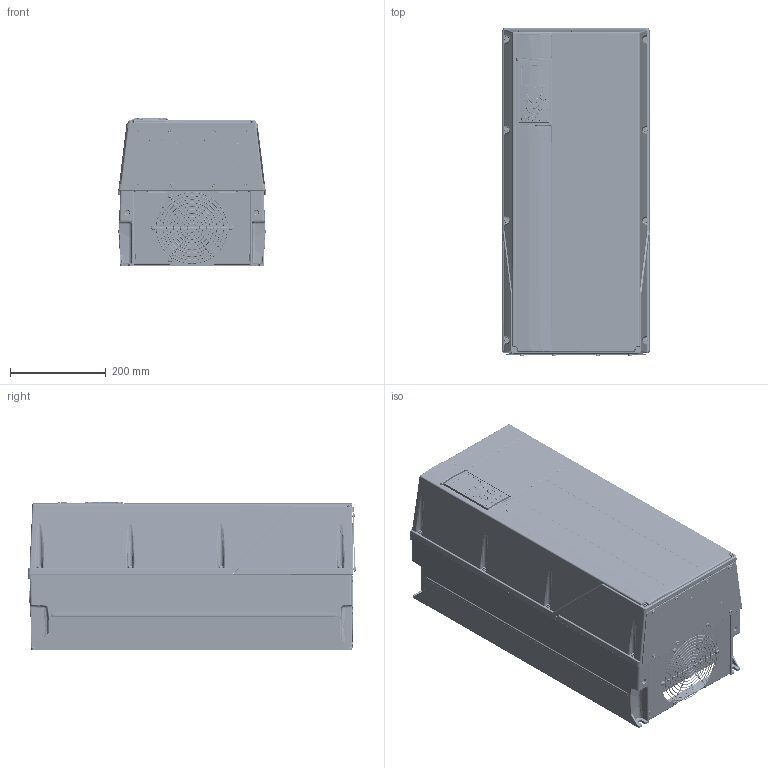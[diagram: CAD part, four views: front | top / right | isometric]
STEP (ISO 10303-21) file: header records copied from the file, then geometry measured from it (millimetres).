
FILE_DESCRIPTION((''),'2;1');
FILE_NAME('DANFOSS-FC100-C1-004','2007-11-29T',('Naushad.pm'),('dan Drives A/S'),'PRO/ENGINEER BY PARAMETRIC TECHNOLOGY CORPORATION, 2007160','PRO/ENGINEER BY PARAMETRIC TECHNOLOGY CORPORATION, 2007160','');
FILE_SCHEMA(('CONFIG_CONTROL_DESIGN', 'GEOMETRIC_VALIDATION_PROPERTIES_MIM'));
Products named in the file (1): DANFOSS-FC100-C1-004
Bounding box: 307.5 x 685.39 x 310.48 mm (x, y, z)
Volume: 47427375.3 mm3; surface area: 3543852 mm2
Topology: 47 solids, 47 shells, 7634 faces, 19361 edges, 11826 vertices
Faces by surface type: cylinder 2439, plane 2370, bspline 1791, torus 519, cone 353, extrusion 82, sphere 80
Entity records: 533276 total; most frequent: CARTESIAN_POINT 276917, ORIENTED_EDGE 38552, DIRECTION 29747, PRESENTATION_STYLE_ASSIGNMENT 22266, STYLED_ITEM 19323, CURVE_STYLE 19276, EDGE_CURVE 19276, VERTEX_POINT 11825
